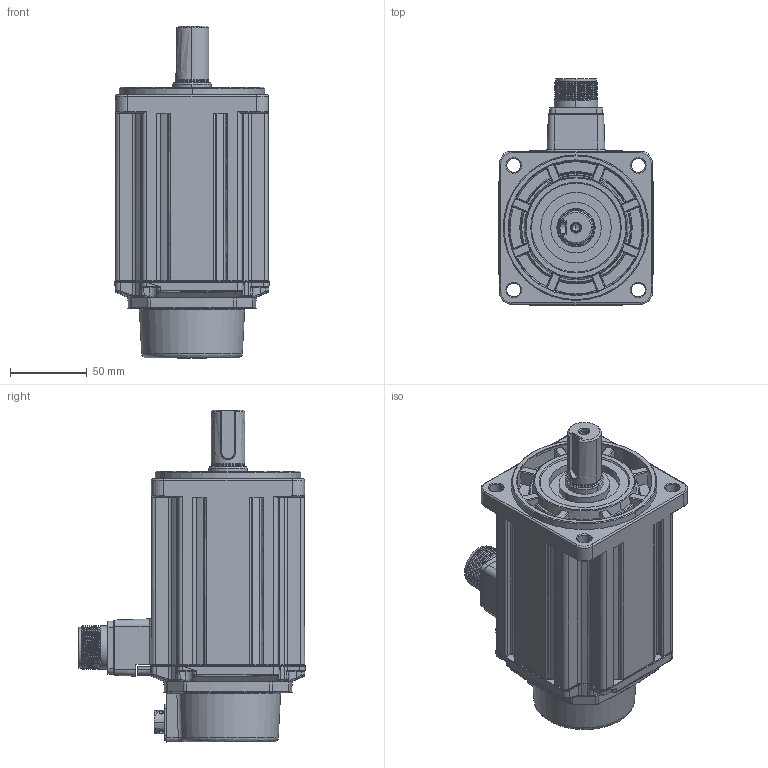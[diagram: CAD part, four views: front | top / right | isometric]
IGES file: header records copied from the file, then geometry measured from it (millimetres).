
Start section:  PTC IGES file: ECM-B3M-CX1020RS1.igs
Global section: file name: ECM-B3M-CX1020RS1.igs; native system: Creo Parametric by PTC Inc.; preprocessor: 2020454; author: CHHSU.HSU; organization: Unknown; date: 20220520.135640; units: inch
Bounding box: 100.74 x 147.77 x 216.8 mm (x, y, z)
Surface area: 120703.9 mm2 (no closed solid volume)
Topology: 0 solids, 0 shells, 2044 faces, 10722 edges, 10673 vertices
Faces by surface type: bspline 1076, revolution 952, extrusion 16
